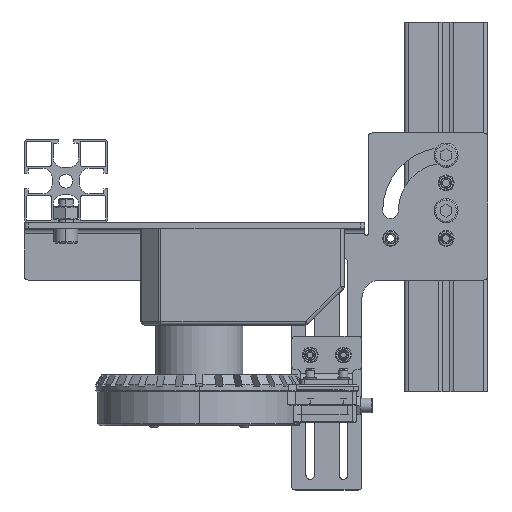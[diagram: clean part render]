
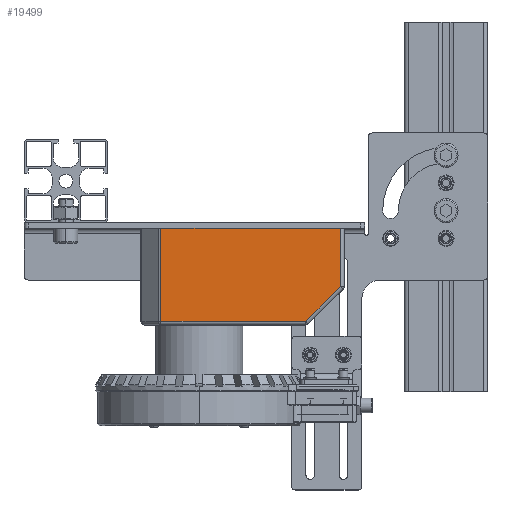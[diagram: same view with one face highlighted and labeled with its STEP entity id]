
A CAD part, left-side view. The second image highlights one B-rep face of the part: STEP entity #19499.
In plain terms, the highlighted planar face has unit normal (-1, 0, 0) as drawn and (1, 0, 0) by its records, which use the part's own axes.
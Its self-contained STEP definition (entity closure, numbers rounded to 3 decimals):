
#581 = CARTESIAN_POINT ( 'NONE',  ( 35., 5.332, 107.94 ) ) ;
#2207 = VECTOR ( 'NONE', #22746, 1000. ) ;
#3175 = LINE ( 'NONE', #40959, #40247 ) ;
#5613 = DIRECTION ( 'NONE',  ( 1., 0., 0. ) ) ;
#5834 = CARTESIAN_POINT ( 'NONE',  ( 35., 24.16, 89.112 ) ) ;
#7184 = VERTEX_POINT ( 'NONE', #15014 ) ;
#8347 = FACE_OUTER_BOUND ( 'NONE', #10908, .T. ) ;
#10908 = EDGE_LOOP ( 'NONE', ( #30606, #41816, #20266, #38628, #12723 ) ) ;
#12723 = ORIENTED_EDGE ( 'NONE', *, *, #22531, .T. ) ;
#14416 = EDGE_CURVE ( 'NONE', #34481, #7184, #45476, .T. ) ;
#14819 = VERTEX_POINT ( 'NONE', #41295 ) ;
#15014 = CARTESIAN_POINT ( 'NONE',  ( 35., 24.16, 10.828 ) ) ;
#16445 = CARTESIAN_POINT ( 'NONE',  ( 35., 0., 10.828 ) ) ;
#16672 = CARTESIAN_POINT ( 'NONE',  ( 35., 0., 0. ) ) ;
#17085 = CARTESIAN_POINT ( 'NONE',  ( 35., -26.16, 10.828 ) ) ;
#17109 = DIRECTION ( 'NONE',  ( 0., -0.707, 0.707 ) ) ;
#19499 = ADVANCED_FACE ( 'NONE', ( #8347 ), #27796, .T. ) ;
#20114 = CARTESIAN_POINT ( 'NONE',  ( 35., -26.16, 109.94 ) ) ;
#20143 = DIRECTION ( 'NONE',  ( 0., 1., 0. ) ) ;
#20266 = ORIENTED_EDGE ( 'NONE', *, *, #29337, .T. ) ;
#20274 = VECTOR ( 'NONE', #17109, 1000. ) ;
#21436 = LINE ( 'NONE', #46550, #20274 ) ;
#22531 = EDGE_CURVE ( 'NONE', #7184, #25993, #3175, .T. ) ;
#22746 = DIRECTION ( 'NONE',  ( 0., -1., 0. ) ) ;
#23114 = LINE ( 'NONE', #37490, #2207 ) ;
#25993 = VERTEX_POINT ( 'NONE', #5834 ) ;
#27796 = PLANE ( 'NONE',  #28570 ) ;
#28570 = AXIS2_PLACEMENT_3D ( 'NONE', #16672, #5613, #31514 ) ;
#29337 = EDGE_CURVE ( 'NONE', #14819, #34481, #37733, .T. ) ;
#30252 = VERTEX_POINT ( 'NONE', #581 ) ;
#30606 = ORIENTED_EDGE ( 'NONE', *, *, #37579, .T. ) ;
#31514 = DIRECTION ( 'NONE',  ( 0., 0., -1. ) ) ;
#32854 = EDGE_CURVE ( 'NONE', #30252, #14819, #23114, .T. ) ;
#33667 = DIRECTION ( 'NONE',  ( 0., 0., 1. ) ) ;
#34481 = VERTEX_POINT ( 'NONE', #17085 ) ;
#37490 = CARTESIAN_POINT ( 'NONE',  ( 35., 0., 107.94 ) ) ;
#37579 = EDGE_CURVE ( 'NONE', #25993, #30252, #21436, .T. ) ;
#37733 = LINE ( 'NONE', #20114, #40022 ) ;
#38628 = ORIENTED_EDGE ( 'NONE', *, *, #14416, .T. ) ;
#40022 = VECTOR ( 'NONE', #42285, 1000. ) ;
#40247 = VECTOR ( 'NONE', #33667, 1000. ) ;
#40959 = CARTESIAN_POINT ( 'NONE',  ( 35., 24.16, 0. ) ) ;
#41295 = CARTESIAN_POINT ( 'NONE',  ( 35., -26.16, 107.94 ) ) ;
#41816 = ORIENTED_EDGE ( 'NONE', *, *, #32854, .T. ) ;
#42285 = DIRECTION ( 'NONE',  ( 0., 0., -1. ) ) ;
#44322 = VECTOR ( 'NONE', #20143, 1000. ) ;
#45476 = LINE ( 'NONE', #16445, #44322 ) ;
#46550 = CARTESIAN_POINT ( 'NONE',  ( 35., 56.636, 56.636 ) ) ;
